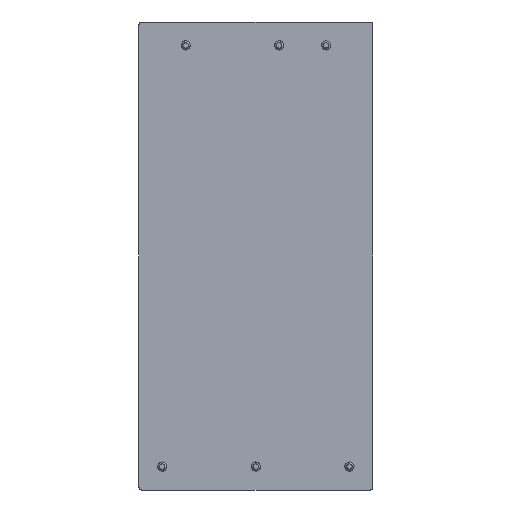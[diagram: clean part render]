
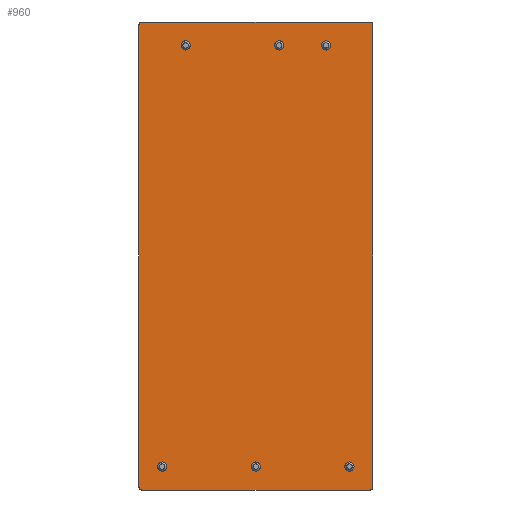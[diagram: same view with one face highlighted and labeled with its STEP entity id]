
A CAD part, front view. The second image highlights one B-rep face of the part: STEP entity #960.
In plain terms, the highlighted planar face has unit normal (0, -1, 0).
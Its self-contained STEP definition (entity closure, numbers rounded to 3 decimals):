
#2 = LINE ( 'NONE', #458, #734 ) ;
#8 = FACE_OUTER_BOUND ( 'NONE', #581, .T. ) ;
#11 = LINE ( 'NONE', #1179, #589 ) ;
#36 = FACE_BOUND ( 'NONE', #363, .T. ) ;
#48 = EDGE_CURVE ( 'NONE', #1322, #417, #183, .T. ) ;
#62 = CARTESIAN_POINT ( 'NONE',  ( 12.576, 0., -25.4 ) ) ;
#65 = VERTEX_POINT ( 'NONE', #552 ) ;
#106 = CARTESIAN_POINT ( 'NONE',  ( -10.18, 0., -22.86 ) ) ;
#123 = DIRECTION ( 'NONE',  ( 0., 0., -1. ) ) ;
#125 = AXIS2_PLACEMENT_3D ( 'NONE', #1288, #1178, #855 ) ;
#146 = CARTESIAN_POINT ( 'NONE',  ( -12.7, 0., 25.1 ) ) ;
#150 = CARTESIAN_POINT ( 'NONE',  ( 7.6, 0., 22.36 ) ) ;
#167 = VERTEX_POINT ( 'NONE', #721 ) ;
#180 = VECTOR ( 'NONE', #513, 1000. ) ;
#183 =( BOUNDED_CURVE ( )  B_SPLINE_CURVE ( 3, ( #476, #1242, #906, #146 ),
 .UNSPECIFIED., .F., .T. ) 
 B_SPLINE_CURVE_WITH_KNOTS ( ( 4, 4 ),
 ( 5.498, 7.069 ),
 .UNSPECIFIED. ) 
 CURVE ( )  GEOMETRIC_REPRESENTATION_ITEM ( )  RATIONAL_B_SPLINE_CURVE ( ( 1., 0.805, 0.805, 1. ) ) 
 REPRESENTATION_ITEM ( '' )  );
#190 = DIRECTION ( 'NONE',  ( 0., -1., 0. ) ) ;
#192 = CARTESIAN_POINT ( 'NONE',  ( 12.7, 0., -25.1 ) ) ;
#193 = ORIENTED_EDGE ( 'NONE', *, *, #1313, .T. ) ;
#221 = CARTESIAN_POINT ( 'NONE',  ( 12.7, 0., 25.1 ) ) ;
#226 = DIRECTION ( 'NONE',  ( 0., 0., -1. ) ) ;
#230 = EDGE_LOOP ( 'NONE', ( #1117 ) ) ;
#267 = DIRECTION ( 'NONE',  ( 0., 0., -1. ) ) ;
#297 = DIRECTION ( 'NONE',  ( 0., 0., -1. ) ) ;
#298 = FACE_BOUND ( 'NONE', #1156, .T. ) ;
#309 = CARTESIAN_POINT ( 'NONE',  ( -12.4, 0., 25.4 ) ) ;
#312 = CARTESIAN_POINT ( 'NONE',  ( 12.4, 0., 25.4 ) ) ;
#335 = FACE_BOUND ( 'NONE', #342, .T. ) ;
#342 = EDGE_LOOP ( 'NONE', ( #1157 ) ) ;
#347 = EDGE_CURVE ( 'NONE', #1356, #1356, #892, .T. ) ;
#352 = AXIS2_PLACEMENT_3D ( 'NONE', #1300, #1420, #226 ) ;
#363 = EDGE_LOOP ( 'NONE', ( #788 ) ) ;
#364 =( BOUNDED_CURVE ( )  B_SPLINE_CURVE ( 3, ( #409, #62, #693, #1271 ),
 .UNSPECIFIED., .F., .T. ) 
 B_SPLINE_CURVE_WITH_KNOTS ( ( 4, 4 ),
 ( 5.498, 7.069 ),
 .UNSPECIFIED. ) 
 CURVE ( )  GEOMETRIC_REPRESENTATION_ITEM ( )  RATIONAL_B_SPLINE_CURVE ( ( 1., 0.805, 0.805, 1. ) ) 
 REPRESENTATION_ITEM ( '' )  );
#382 = ORIENTED_EDGE ( 'NONE', *, *, #926, .T. ) ;
#385 = VERTEX_POINT ( 'NONE', #221 ) ;
#387 = VECTOR ( 'NONE', #530, 1000. ) ;
#395 = CARTESIAN_POINT ( 'NONE',  ( 12.4, 0., -25.4 ) ) ;
#397 = EDGE_CURVE ( 'NONE', #1057, #1057, #1172, .T. ) ;
#409 = CARTESIAN_POINT ( 'NONE',  ( 12.4, 0., -25.4 ) ) ;
#414 = ORIENTED_EDGE ( 'NONE', *, *, #1210, .F. ) ;
#417 = VERTEX_POINT ( 'NONE', #1077 ) ;
#425 = EDGE_CURVE ( 'NONE', #385, #1268, #2, .T. ) ;
#447 = CIRCLE ( 'NONE', #352, 0.5 ) ;
#458 = CARTESIAN_POINT ( 'NONE',  ( 12.7, 0., 25.4 ) ) ;
#470 = EDGE_CURVE ( 'NONE', #1322, #674, #1055, .T. ) ;
#472 = CARTESIAN_POINT ( 'NONE',  ( 12.7, 0., 25.276 ) ) ;
#476 = CARTESIAN_POINT ( 'NONE',  ( -12.4, 0., 25.4 ) ) ;
#477 = CIRCLE ( 'NONE', #1084, 0.5 ) ;
#491 = VERTEX_POINT ( 'NONE', #150 ) ;
#495 = EDGE_CURVE ( 'NONE', #780, #780, #679, .T. ) ;
#498 = ORIENTED_EDGE ( 'NONE', *, *, #48, .T. ) ;
#500 = ORIENTED_EDGE ( 'NONE', *, *, #882, .F. ) ;
#502 = VERTEX_POINT ( 'NONE', #954 ) ;
#507 = CARTESIAN_POINT ( 'NONE',  ( 10.14, 0., -23.36 ) ) ;
#513 = DIRECTION ( 'NONE',  ( 0., 0., 1. ) ) ;
#530 = DIRECTION ( 'NONE',  ( 1., 0., 0. ) ) ;
#544 = EDGE_CURVE ( 'NONE', #491, #491, #447, .T. ) ;
#545 = CARTESIAN_POINT ( 'NONE',  ( 0., 0., 0. ) ) ;
#552 = CARTESIAN_POINT ( 'NONE',  ( -12.7, 0., -25.1 ) ) ;
#581 = EDGE_LOOP ( 'NONE', ( #1189, #382, #1050, #1035, #630, #498, #500, #193 ) ) ;
#582 = CARTESIAN_POINT ( 'NONE',  ( 12.4, 0., 25.4 ) ) ;
#587 = FACE_BOUND ( 'NONE', #1030, .T. ) ;
#589 = VECTOR ( 'NONE', #1315, 1000. ) ;
#598 = DIRECTION ( 'NONE',  ( 0., -1., 0. ) ) ;
#623 = FACE_BOUND ( 'NONE', #230, .T. ) ;
#626 = CARTESIAN_POINT ( 'NONE',  ( 12.7, 0., 25.1 ) ) ;
#630 = ORIENTED_EDGE ( 'NONE', *, *, #470, .F. ) ;
#641 = EDGE_CURVE ( 'NONE', #890, #502, #11, .T. ) ;
#655 = DIRECTION ( 'NONE',  ( 0., -1., 0. ) ) ;
#665 =( BOUNDED_CURVE ( )  B_SPLINE_CURVE ( 3, ( #626, #472, #1327, #312 ),
 .UNSPECIFIED., .F., .F. ) 
 B_SPLINE_CURVE_WITH_KNOTS ( ( 4, 4 ),
 ( 5.498, 7.069 ),
 .UNSPECIFIED. ) 
 CURVE ( )  GEOMETRIC_REPRESENTATION_ITEM ( )  RATIONAL_B_SPLINE_CURVE ( ( 1., 0.805, 0.805, 1. ) ) 
 REPRESENTATION_ITEM ( '' )  );
#674 = VERTEX_POINT ( 'NONE', #582 ) ;
#679 = CIRCLE ( 'NONE', #886, 0.5 ) ;
#693 = CARTESIAN_POINT ( 'NONE',  ( 12.7, 0., -25.276 ) ) ;
#721 = CARTESIAN_POINT ( 'NONE',  ( -7.64, 0., 22.36 ) ) ;
#729 = CARTESIAN_POINT ( 'NONE',  ( 2.52, 0., 22.86 ) ) ;
#734 = VECTOR ( 'NONE', #965, 1000. ) ;
#757 = LINE ( 'NONE', #1033, #180 ) ;
#759 = DIRECTION ( 'NONE',  ( 0., -1., 0. ) ) ;
#780 = VERTEX_POINT ( 'NONE', #507 ) ;
#786 = CARTESIAN_POINT ( 'NONE',  ( 10.14, 0., -22.86 ) ) ;
#788 = ORIENTED_EDGE ( 'NONE', *, *, #397, .F. ) ;
#826 = CARTESIAN_POINT ( 'NONE',  ( -12.576, 0., -25.4 ) ) ;
#852 = EDGE_LOOP ( 'NONE', ( #900 ) ) ;
#855 = DIRECTION ( 'NONE',  ( 0., 0., -1. ) ) ;
#861 = CARTESIAN_POINT ( 'NONE',  ( -7.64, 0., 22.86 ) ) ;
#882 = EDGE_CURVE ( 'NONE', #65, #417, #757, .T. ) ;
#886 = AXIS2_PLACEMENT_3D ( 'NONE', #786, #1063, #961 ) ;
#890 = VERTEX_POINT ( 'NONE', #395 ) ;
#892 = CIRCLE ( 'NONE', #1392, 0.5 ) ;
#900 = ORIENTED_EDGE ( 'NONE', *, *, #1253, .F. ) ;
#906 = CARTESIAN_POINT ( 'NONE',  ( -12.7, 0., 25.276 ) ) ;
#926 = EDGE_CURVE ( 'NONE', #890, #1268, #364, .T. ) ;
#948 = EDGE_CURVE ( 'NONE', #385, #674, #665, .T. ) ;
#954 = CARTESIAN_POINT ( 'NONE',  ( -12.4, 0., -25.4 ) ) ;
#960 = ADVANCED_FACE ( 'NONE', ( #335, #587, #36, #623, #1159, #298, #8 ), #1412, .T. ) ;
#961 = DIRECTION ( 'NONE',  ( 0., 0., -1. ) ) ;
#964 = CARTESIAN_POINT ( 'NONE',  ( 2.52, 0., 22.36 ) ) ;
#965 = DIRECTION ( 'NONE',  ( 0., 0., -1. ) ) ;
#1030 = EDGE_LOOP ( 'NONE', ( #1286 ) ) ;
#1033 = CARTESIAN_POINT ( 'NONE',  ( -12.7, 0., 25.4 ) ) ;
#1035 = ORIENTED_EDGE ( 'NONE', *, *, #948, .T. ) ;
#1038 = CARTESIAN_POINT ( 'NONE',  ( -10.18, 0., -23.36 ) ) ;
#1046 = CARTESIAN_POINT ( 'NONE',  ( -12.7, 0., -25.1 ) ) ;
#1050 = ORIENTED_EDGE ( 'NONE', *, *, #425, .F. ) ;
#1055 = LINE ( 'NONE', #1258, #387 ) ;
#1057 = VERTEX_POINT ( 'NONE', #1150 ) ;
#1063 = DIRECTION ( 'NONE',  ( 0., -1., 0. ) ) ;
#1077 = CARTESIAN_POINT ( 'NONE',  ( -12.7, 0., 25.1 ) ) ;
#1084 = AXIS2_PLACEMENT_3D ( 'NONE', #861, #598, #267 ) ;
#1117 = ORIENTED_EDGE ( 'NONE', *, *, #544, .F. ) ;
#1137 = AXIS2_PLACEMENT_3D ( 'NONE', #545, #655, #123 ) ;
#1150 = CARTESIAN_POINT ( 'NONE',  ( -0.02, 0., -23.36 ) ) ;
#1156 = EDGE_LOOP ( 'NONE', ( #414 ) ) ;
#1157 = ORIENTED_EDGE ( 'NONE', *, *, #347, .F. ) ;
#1158 = AXIS2_PLACEMENT_3D ( 'NONE', #729, #190, #297 ) ;
#1159 = FACE_BOUND ( 'NONE', #852, .T. ) ;
#1172 = CIRCLE ( 'NONE', #125, 0.5 ) ;
#1178 = DIRECTION ( 'NONE',  ( 0., -1., 0. ) ) ;
#1179 = CARTESIAN_POINT ( 'NONE',  ( -12.7, 0., -25.4 ) ) ;
#1189 = ORIENTED_EDGE ( 'NONE', *, *, #641, .F. ) ;
#1210 = EDGE_CURVE ( 'NONE', #167, #167, #477, .T. ) ;
#1242 = CARTESIAN_POINT ( 'NONE',  ( -12.576, 0., 25.4 ) ) ;
#1253 = EDGE_CURVE ( 'NONE', #1276, #1276, #1304, .T. ) ;
#1258 = CARTESIAN_POINT ( 'NONE',  ( -12.7, 0., 25.4 ) ) ;
#1268 = VERTEX_POINT ( 'NONE', #192 ) ;
#1271 = CARTESIAN_POINT ( 'NONE',  ( 12.7, 0., -25.1 ) ) ;
#1276 = VERTEX_POINT ( 'NONE', #964 ) ;
#1281 = CARTESIAN_POINT ( 'NONE',  ( -12.7, 0., -25.276 ) ) ;
#1286 = ORIENTED_EDGE ( 'NONE', *, *, #495, .F. ) ;
#1288 = CARTESIAN_POINT ( 'NONE',  ( -0.02, 0., -22.86 ) ) ;
#1300 = CARTESIAN_POINT ( 'NONE',  ( 7.6, 0., 22.86 ) ) ;
#1304 = CIRCLE ( 'NONE', #1158, 0.5 ) ;
#1313 = EDGE_CURVE ( 'NONE', #65, #502, #1351, .T. ) ;
#1315 = DIRECTION ( 'NONE',  ( -1., 0., 0. ) ) ;
#1322 = VERTEX_POINT ( 'NONE', #309 ) ;
#1327 = CARTESIAN_POINT ( 'NONE',  ( 12.576, 0., 25.4 ) ) ;
#1351 =( BOUNDED_CURVE ( )  B_SPLINE_CURVE ( 3, ( #1046, #1281, #826, #1366 ),
 .UNSPECIFIED., .F., .T. ) 
 B_SPLINE_CURVE_WITH_KNOTS ( ( 4, 4 ),
 ( 5.498, 7.069 ),
 .UNSPECIFIED. ) 
 CURVE ( )  GEOMETRIC_REPRESENTATION_ITEM ( )  RATIONAL_B_SPLINE_CURVE ( ( 1., 0.805, 0.805, 1. ) ) 
 REPRESENTATION_ITEM ( '' )  );
#1356 = VERTEX_POINT ( 'NONE', #1038 ) ;
#1366 = CARTESIAN_POINT ( 'NONE',  ( -12.4, 0., -25.4 ) ) ;
#1392 = AXIS2_PLACEMENT_3D ( 'NONE', #106, #759, #1415 ) ;
#1412 = PLANE ( 'NONE',  #1137 ) ;
#1415 = DIRECTION ( 'NONE',  ( 0., 0., -1. ) ) ;
#1420 = DIRECTION ( 'NONE',  ( 0., -1., 0. ) ) ;
